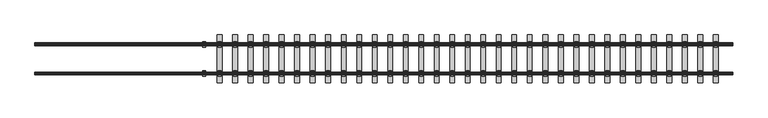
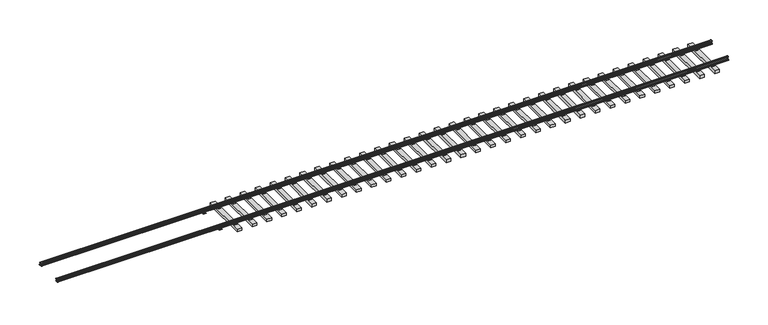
"""IFC4 building model written with IfcOpenShell, lengths in millimetres: railing geometry, Koleje."""

from ifc_helpers import new_model, si_unit, point, frame, frame_2d, origin, place, context, project, spatial, polyline, circle_curve, trimmed, segment, composite_curve, outline, extrude, source, transform, mapped, element, save


def railing_1b08457a(model_context):
    return source(origin(), model_context, "Body", "SweptSolid", [
        extrude(outline(composite_curve([segment(polyline([(25473.2955787, 161.9663444), (25446.2955787, 147.0), (25446.2955787, 65.0)]), True, "CONTINUOUS"), segment(trimmed(circle_curve(frame_2d((25466.7955787, 65.0)), 20.5), [point((25446.2955787, 65.0))], [point((25460.9481446, 45.3516536))], True, "CARTESIAN"), True, "CONTINUOUS"), segment(polyline([(25460.9481446, 45.3516536), (25478.5397234, 39.9733683)]), True, "CONTINUOUS"), segment(trimmed(circle_curve(frame_2d((25501.4294598, 126.5921559)), 89.5921559), [point((25478.5397234, 39.9733683))], [point((25501.4294598, 37.0))], True, "CARTESIAN"), True, "CONTINUOUS"), segment(polyline([(25501.4294598, 37.0), (25511.2955787, 37.0), (25511.2955787, 15.0), (25361.2955787, 15.0), (25361.2955787, 37.0), (25371.1616977, 37.0)]), True, "CONTINUOUS"), segment(trimmed(circle_curve(frame_2d((25371.1616977, 116.8785391)), 79.8785391), [point((25371.1616977, 37.0))], [point((25394.0514341, 40.3498453))], True, "CARTESIAN"), True, "CONTINUOUS"), segment(polyline([(25394.0514341, 40.3498453), (25411.6430128, 45.7281306)]), True, "CONTINUOUS"), segment(trimmed(circle_curve(frame_2d((25406.2955787, 65.0)), 20.0), [point((25411.6430128, 45.7281306))], [point((25426.2955787, 65.0))], True, "CARTESIAN"), True, "CONTINUOUS"), segment(polyline([(25426.2955787, 65.0), (25426.2955787, 147.0), (25399.2955787, 161.9663444), (25399.2955787, 176.5)]), True, "CONTINUOUS"), segment(trimmed(circle_curve(frame_2d((25417.7955787, 176.5)), 18.5), [point((25399.2955787, 176.5))], [point((25417.7955787, 195.0))], False, "CARTESIAN"), True, "CONTINUOUS"), segment(polyline([(25417.7955787, 195.0), (25454.7955787, 195.0)]), True, "CONTINUOUS"), segment(trimmed(circle_curve(frame_2d((25454.7955787, 176.5)), 18.5), [point((25454.7955787, 195.0))], [point((25473.2955787, 176.5))], False, "CARTESIAN"), True, "CONTINUOUS"), segment(polyline([(25473.2955787, 176.5), (25473.2955787, 161.9663444)]), True, "CONTINUOUS")], self_intersect=False)), frame((26961.7094345, 0.0, 0.0), z_axis=(1.0, 0.0, 0.0), x_axis=(0.0, 1.0, 0.0)), (0.0, 0.0, 1.0), 36300.0),
        extrude(outline(composite_curve([segment(polyline([(26982.2955787, 161.9663444), (26955.2955787, 147.0), (26955.2955787, 65.0)]), True, "CONTINUOUS"), segment(trimmed(circle_curve(frame_2d((26975.7955787, 65.0)), 20.5), [point((26955.2955787, 65.0))], [point((26969.9481446, 45.3516536))], True, "CARTESIAN"), True, "CONTINUOUS"), segment(polyline([(26969.9481446, 45.3516536), (26987.5397234, 39.9733683)]), True, "CONTINUOUS"), segment(trimmed(circle_curve(frame_2d((27010.4294598, 126.5921559)), 89.5921559), [point((26987.5397234, 39.9733683))], [point((27010.4294598, 37.0))], True, "CARTESIAN"), True, "CONTINUOUS"), segment(polyline([(27010.4294598, 37.0), (27020.2955787, 37.0), (27020.2955787, 15.0), (26870.2955787, 15.0), (26870.2955787, 37.0), (26880.1616977, 37.0)]), True, "CONTINUOUS"), segment(trimmed(circle_curve(frame_2d((26880.1616977, 116.8785391)), 79.8785391), [point((26880.1616977, 37.0))], [point((26903.0514341, 40.3498453))], True, "CARTESIAN"), True, "CONTINUOUS"), segment(polyline([(26903.0514341, 40.3498453), (26920.6430128, 45.7281306)]), True, "CONTINUOUS"), segment(trimmed(circle_curve(frame_2d((26915.2955787, 65.0)), 20.0), [point((26920.6430128, 45.7281306))], [point((26935.2955787, 65.0))], True, "CARTESIAN"), True, "CONTINUOUS"), segment(polyline([(26935.2955787, 65.0), (26935.2955787, 147.0), (26908.2955787, 161.9663444), (26908.2955787, 176.5)]), True, "CONTINUOUS"), segment(trimmed(circle_curve(frame_2d((26926.7955787, 176.5)), 18.5), [point((26908.2955787, 176.5))], [point((26926.7955787, 195.0))], False, "CARTESIAN"), True, "CONTINUOUS"), segment(polyline([(26926.7955787, 195.0), (26963.7955787, 195.0)]), True, "CONTINUOUS"), segment(trimmed(circle_curve(frame_2d((26963.7955787, 176.5)), 18.5), [point((26963.7955787, 195.0))], [point((26982.2955787, 176.5))], False, "CARTESIAN"), True, "CONTINUOUS"), segment(polyline([(26982.2955787, 176.5), (26982.2955787, 161.9663444)]), True, "CONTINUOUS")], self_intersect=False)), frame((26961.7094345, 0.0, 0.0), z_axis=(1.0, 0.0, 0.0), x_axis=(0.0, 1.0, 0.0)), (0.0, 0.0, 1.0), 36300.0),
        extrude(outline(polyline([(27095.2955787, 0.0), (26795.2955787, 0.0), (26795.2955787, 7.5), (26855.2955787, 15.0), (26870.2955787, 30.0), (26870.2955787, 15.0), (27020.2955787, 15.0), (27020.2955787, 30.0), (27035.2955787, 15.0), (27095.2955787, 7.5), (27095.2955787, 0.0)])), frame((62312.1796907, 0.0, 0.0), z_axis=(1.0, 0.0, 0.0), x_axis=(0.0, 1.0, 0.0)), (0.0, 0.0, 1.0), 150.0),
        extrude(outline(polyline([(25586.2955787, 0.0), (25286.2955787, 0.0), (25286.2955787, 7.5), (25346.2955787, 15.0), (25361.2955787, 30.0), (25361.2955787, 15.0), (25511.2955787, 15.0), (25511.2955787, 30.0), (25526.2955787, 15.0), (25586.2955787, 7.5), (25586.2955787, 0.0)])), frame((62312.1796907, 0.0, 0.0), z_axis=(1.0, 0.0, 0.0), x_axis=(0.0, 1.0, 0.0)), (0.0, 0.0, 1.0), 150.0),
        extrude(outline(polyline([(62262.1796907, 27440.7955787), (62512.1796907, 27440.7955787), (62512.1796907, 24940.7955787), (62262.1796907, 24940.7955787), (62262.1796907, 27440.7955787)])), frame((0.0, 0.0, -150.0), z_axis=(0.0, 0.0, 1.0), x_axis=(1.0, 0.0, 0.0)), (0.0, 0.0, 1.0), 150.0),
        extrude(outline(polyline([(27095.2955787, 0.0), (26795.2955787, 0.0), (26795.2955787, 7.5), (26855.2955787, 15.0), (26870.2955787, 30.0), (26870.2955787, 15.0), (27020.2955787, 15.0), (27020.2955787, 30.0), (27035.2955787, 15.0), (27095.2955787, 7.5), (27095.2955787, 0.0)])), frame((61505.5130241, 0.0, 0.0), z_axis=(1.0, 0.0, 0.0), x_axis=(0.0, 1.0, 0.0)), (0.0, 0.0, 1.0), 150.0),
        extrude(outline(polyline([(25586.2955787, 0.0), (25286.2955787, 0.0), (25286.2955787, 7.5), (25346.2955787, 15.0), (25361.2955787, 30.0), (25361.2955787, 15.0), (25511.2955787, 15.0), (25511.2955787, 30.0), (25526.2955787, 15.0), (25586.2955787, 7.5), (25586.2955787, 0.0)])), frame((61505.5130241, 0.0, 0.0), z_axis=(1.0, 0.0, 0.0), x_axis=(0.0, 1.0, 0.0)), (0.0, 0.0, 1.0), 150.0),
        extrude(outline(polyline([(61455.5130241, 27440.7955787), (61705.5130241, 27440.7955787), (61705.5130241, 24940.7955787), (61455.5130241, 24940.7955787), (61455.5130241, 27440.7955787)])), frame((0.0, 0.0, -150.0), z_axis=(0.0, 0.0, 1.0), x_axis=(1.0, 0.0, 0.0)), (0.0, 0.0, 1.0), 150.0),
        extrude(outline(polyline([(27095.2955787, 0.0), (26795.2955787, 0.0), (26795.2955787, 7.5), (26855.2955787, 15.0), (26870.2955787, 30.0), (26870.2955787, 15.0), (27020.2955787, 15.0), (27020.2955787, 30.0), (27035.2955787, 15.0), (27095.2955787, 7.5), (27095.2955787, 0.0)])), frame((60698.8463574, 0.0, 0.0), z_axis=(1.0, 0.0, 0.0), x_axis=(0.0, 1.0, 0.0)), (0.0, 0.0, 1.0), 150.0),
        extrude(outline(polyline([(25586.2955787, 0.0), (25286.2955787, 0.0), (25286.2955787, 7.5), (25346.2955787, 15.0), (25361.2955787, 30.0), (25361.2955787, 15.0), (25511.2955787, 15.0), (25511.2955787, 30.0), (25526.2955787, 15.0), (25586.2955787, 7.5), (25586.2955787, 0.0)])), frame((60698.8463574, 0.0, 0.0), z_axis=(1.0, 0.0, 0.0), x_axis=(0.0, 1.0, 0.0)), (0.0, 0.0, 1.0), 150.0),
        extrude(outline(polyline([(60648.8463574, 27440.7955787), (60898.8463574, 27440.7955787), (60898.8463574, 24940.7955787), (60648.8463574, 24940.7955787), (60648.8463574, 27440.7955787)])), frame((0.0, 0.0, -150.0), z_axis=(0.0, 0.0, 1.0), x_axis=(1.0, 0.0, 0.0)), (0.0, 0.0, 1.0), 150.0),
        extrude(outline(polyline([(27095.2955787, 0.0), (26795.2955787, 0.0), (26795.2955787, 7.5), (26855.2955787, 15.0), (26870.2955787, 30.0), (26870.2955787, 15.0), (27020.2955787, 15.0), (27020.2955787, 30.0), (27035.2955787, 15.0), (27095.2955787, 7.5), (27095.2955787, 0.0)])), frame((59892.1796907, 0.0, 0.0), z_axis=(1.0, 0.0, 0.0), x_axis=(0.0, 1.0, 0.0)), (0.0, 0.0, 1.0), 150.0),
        extrude(outline(polyline([(25586.2955787, 0.0), (25286.2955787, 0.0), (25286.2955787, 7.5), (25346.2955787, 15.0), (25361.2955787, 30.0), (25361.2955787, 15.0), (25511.2955787, 15.0), (25511.2955787, 30.0), (25526.2955787, 15.0), (25586.2955787, 7.5), (25586.2955787, 0.0)])), frame((59892.1796907, 0.0, 0.0), z_axis=(1.0, 0.0, 0.0), x_axis=(0.0, 1.0, 0.0)), (0.0, 0.0, 1.0), 150.0),
        extrude(outline(polyline([(59842.1796907, 27440.7955787), (60092.1796907, 27440.7955787), (60092.1796907, 24940.7955787), (59842.1796907, 24940.7955787), (59842.1796907, 27440.7955787)])), frame((0.0, 0.0, -150.0), z_axis=(0.0, 0.0, 1.0), x_axis=(1.0, 0.0, 0.0)), (0.0, 0.0, 1.0), 150.0),
        extrude(outline(polyline([(27095.2955787, 0.0), (26795.2955787, 0.0), (26795.2955787, 7.5), (26855.2955787, 15.0), (26870.2955787, 30.0), (26870.2955787, 15.0), (27020.2955787, 15.0), (27020.2955787, 30.0), (27035.2955787, 15.0), (27095.2955787, 7.5), (27095.2955787, 0.0)])), frame((59085.5130241, 0.0, 0.0), z_axis=(1.0, 0.0, 0.0), x_axis=(0.0, 1.0, 0.0)), (0.0, 0.0, 1.0), 150.0),
        extrude(outline(polyline([(25586.2955787, 0.0), (25286.2955787, 0.0), (25286.2955787, 7.5), (25346.2955787, 15.0), (25361.2955787, 30.0), (25361.2955787, 15.0), (25511.2955787, 15.0), (25511.2955787, 30.0), (25526.2955787, 15.0), (25586.2955787, 7.5), (25586.2955787, 0.0)])), frame((59085.5130241, 0.0, 0.0), z_axis=(1.0, 0.0, 0.0), x_axis=(0.0, 1.0, 0.0)), (0.0, 0.0, 1.0), 150.0),
        extrude(outline(polyline([(59035.5130241, 27440.7955787), (59285.5130241, 27440.7955787), (59285.5130241, 24940.7955787), (59035.5130241, 24940.7955787), (59035.5130241, 27440.7955787)])), frame((0.0, 0.0, -150.0), z_axis=(0.0, 0.0, 1.0), x_axis=(1.0, 0.0, 0.0)), (0.0, 0.0, 1.0), 150.0),
        extrude(outline(polyline([(27095.2955787, 0.0), (26795.2955787, 0.0), (26795.2955787, 7.5), (26855.2955787, 15.0), (26870.2955787, 30.0), (26870.2955787, 15.0), (27020.2955787, 15.0), (27020.2955787, 30.0), (27035.2955787, 15.0), (27095.2955787, 7.5), (27095.2955787, 0.0)])), frame((58278.8463574, 0.0, 0.0), z_axis=(1.0, 0.0, 0.0), x_axis=(0.0, 1.0, 0.0)), (0.0, 0.0, 1.0), 150.0),
        extrude(outline(polyline([(25586.2955787, 0.0), (25286.2955787, 0.0), (25286.2955787, 7.5), (25346.2955787, 15.0), (25361.2955787, 30.0), (25361.2955787, 15.0), (25511.2955787, 15.0), (25511.2955787, 30.0), (25526.2955787, 15.0), (25586.2955787, 7.5), (25586.2955787, 0.0)])), frame((58278.8463574, 0.0, 0.0), z_axis=(1.0, 0.0, 0.0), x_axis=(0.0, 1.0, 0.0)), (0.0, 0.0, 1.0), 150.0),
        extrude(outline(polyline([(58228.8463574, 27440.7955787), (58478.8463574, 27440.7955787), (58478.8463574, 24940.7955787), (58228.8463574, 24940.7955787), (58228.8463574, 27440.7955787)])), frame((0.0, 0.0, -150.0), z_axis=(0.0, 0.0, 1.0), x_axis=(1.0, 0.0, 0.0)), (0.0, 0.0, 1.0), 150.0),
        extrude(outline(polyline([(27095.2955787, 0.0), (26795.2955787, 0.0), (26795.2955787, 7.5), (26855.2955787, 15.0), (26870.2955787, 30.0), (26870.2955787, 15.0), (27020.2955787, 15.0), (27020.2955787, 30.0), (27035.2955787, 15.0), (27095.2955787, 7.5), (27095.2955787, 0.0)])), frame((57472.1796907, 0.0, 0.0), z_axis=(1.0, 0.0, 0.0), x_axis=(0.0, 1.0, 0.0)), (0.0, 0.0, 1.0), 150.0),
        extrude(outline(polyline([(25586.2955787, 0.0), (25286.2955787, 0.0), (25286.2955787, 7.5), (25346.2955787, 15.0), (25361.2955787, 30.0), (25361.2955787, 15.0), (25511.2955787, 15.0), (25511.2955787, 30.0), (25526.2955787, 15.0), (25586.2955787, 7.5), (25586.2955787, 0.0)])), frame((57472.1796907, 0.0, 0.0), z_axis=(1.0, 0.0, 0.0), x_axis=(0.0, 1.0, 0.0)), (0.0, 0.0, 1.0), 150.0),
        extrude(outline(polyline([(57422.1796907, 27440.7955787), (57672.1796907, 27440.7955787), (57672.1796907, 24940.7955787), (57422.1796907, 24940.7955787), (57422.1796907, 27440.7955787)])), frame((0.0, 0.0, -150.0), z_axis=(0.0, 0.0, 1.0), x_axis=(1.0, 0.0, 0.0)), (0.0, 0.0, 1.0), 150.0),
        extrude(outline(polyline([(27095.2955787, 0.0), (26795.2955787, 0.0), (26795.2955787, 7.5), (26855.2955787, 15.0), (26870.2955787, 30.0), (26870.2955787, 15.0), (27020.2955787, 15.0), (27020.2955787, 30.0), (27035.2955787, 15.0), (27095.2955787, 7.5), (27095.2955787, 0.0)])), frame((56665.5130241, 0.0, 0.0), z_axis=(1.0, 0.0, 0.0), x_axis=(0.0, 1.0, 0.0)), (0.0, 0.0, 1.0), 150.0),
        extrude(outline(polyline([(25586.2955787, 0.0), (25286.2955787, 0.0), (25286.2955787, 7.5), (25346.2955787, 15.0), (25361.2955787, 30.0), (25361.2955787, 15.0), (25511.2955787, 15.0), (25511.2955787, 30.0), (25526.2955787, 15.0), (25586.2955787, 7.5), (25586.2955787, 0.0)])), frame((56665.5130241, 0.0, 0.0), z_axis=(1.0, 0.0, 0.0), x_axis=(0.0, 1.0, 0.0)), (0.0, 0.0, 1.0), 150.0),
        extrude(outline(polyline([(56615.5130241, 27440.7955787), (56865.5130241, 27440.7955787), (56865.5130241, 24940.7955787), (56615.5130241, 24940.7955787), (56615.5130241, 27440.7955787)])), frame((0.0, 0.0, -150.0), z_axis=(0.0, 0.0, 1.0), x_axis=(1.0, 0.0, 0.0)), (0.0, 0.0, 1.0), 150.0),
        extrude(outline(polyline([(27095.2955787, 0.0), (26795.2955787, 0.0), (26795.2955787, 7.5), (26855.2955787, 15.0), (26870.2955787, 30.0), (26870.2955787, 15.0), (27020.2955787, 15.0), (27020.2955787, 30.0), (27035.2955787, 15.0), (27095.2955787, 7.5), (27095.2955787, 0.0)])), frame((55858.8463574, 0.0, 0.0), z_axis=(1.0, 0.0, 0.0), x_axis=(0.0, 1.0, 0.0)), (0.0, 0.0, 1.0), 150.0),
        extrude(outline(polyline([(25586.2955787, 0.0), (25286.2955787, 0.0), (25286.2955787, 7.5), (25346.2955787, 15.0), (25361.2955787, 30.0), (25361.2955787, 15.0), (25511.2955787, 15.0), (25511.2955787, 30.0), (25526.2955787, 15.0), (25586.2955787, 7.5), (25586.2955787, 0.0)])), frame((55858.8463574, 0.0, 0.0), z_axis=(1.0, 0.0, 0.0), x_axis=(0.0, 1.0, 0.0)), (0.0, 0.0, 1.0), 150.0),
        extrude(outline(polyline([(55808.8463574, 27440.7955787), (56058.8463574, 27440.7955787), (56058.8463574, 24940.7955787), (55808.8463574, 24940.7955787), (55808.8463574, 27440.7955787)])), frame((0.0, 0.0, -150.0), z_axis=(0.0, 0.0, 1.0), x_axis=(1.0, 0.0, 0.0)), (0.0, 0.0, 1.0), 150.0),
        extrude(outline(polyline([(27095.2955787, 0.0), (26795.2955787, 0.0), (26795.2955787, 7.5), (26855.2955787, 15.0), (26870.2955787, 30.0), (26870.2955787, 15.0), (27020.2955787, 15.0), (27020.2955787, 30.0), (27035.2955787, 15.0), (27095.2955787, 7.5), (27095.2955787, 0.0)])), frame((55052.1796907, 0.0, 0.0), z_axis=(1.0, 0.0, 0.0), x_axis=(0.0, 1.0, 0.0)), (0.0, 0.0, 1.0), 150.0),
        extrude(outline(polyline([(25586.2955787, 0.0), (25286.2955787, 0.0), (25286.2955787, 7.5), (25346.2955787, 15.0), (25361.2955787, 30.0), (25361.2955787, 15.0), (25511.2955787, 15.0), (25511.2955787, 30.0), (25526.2955787, 15.0), (25586.2955787, 7.5), (25586.2955787, 0.0)])), frame((55052.1796907, 0.0, 0.0), z_axis=(1.0, 0.0, 0.0), x_axis=(0.0, 1.0, 0.0)), (0.0, 0.0, 1.0), 150.0),
        extrude(outline(polyline([(55002.1796907, 27440.7955787), (55252.1796907, 27440.7955787), (55252.1796907, 24940.7955787), (55002.1796907, 24940.7955787), (55002.1796907, 27440.7955787)])), frame((0.0, 0.0, -150.0), z_axis=(0.0, 0.0, 1.0), x_axis=(1.0, 0.0, 0.0)), (0.0, 0.0, 1.0), 150.0),
        extrude(outline(polyline([(27095.2955787, 0.0), (26795.2955787, 0.0), (26795.2955787, 7.5), (26855.2955787, 15.0), (26870.2955787, 30.0), (26870.2955787, 15.0), (27020.2955787, 15.0), (27020.2955787, 30.0), (27035.2955787, 15.0), (27095.2955787, 7.5), (27095.2955787, 0.0)])), frame((54245.5130241, 0.0, 0.0), z_axis=(1.0, 0.0, 0.0), x_axis=(0.0, 1.0, 0.0)), (0.0, 0.0, 1.0), 150.0),
        extrude(outline(polyline([(25586.2955787, 0.0), (25286.2955787, 0.0), (25286.2955787, 7.5), (25346.2955787, 15.0), (25361.2955787, 30.0), (25361.2955787, 15.0), (25511.2955787, 15.0), (25511.2955787, 30.0), (25526.2955787, 15.0), (25586.2955787, 7.5), (25586.2955787, 0.0)])), frame((54245.5130241, 0.0, 0.0), z_axis=(1.0, 0.0, 0.0), x_axis=(0.0, 1.0, 0.0)), (0.0, 0.0, 1.0), 150.0),
        extrude(outline(polyline([(54195.5130241, 27440.7955787), (54445.5130241, 27440.7955787), (54445.5130241, 24940.7955787), (54195.5130241, 24940.7955787), (54195.5130241, 27440.7955787)])), frame((0.0, 0.0, -150.0), z_axis=(0.0, 0.0, 1.0), x_axis=(1.0, 0.0, 0.0)), (0.0, 0.0, 1.0), 150.0),
        extrude(outline(polyline([(27095.2955787, 0.0), (26795.2955787, 0.0), (26795.2955787, 7.5), (26855.2955787, 15.0), (26870.2955787, 30.0), (26870.2955787, 15.0), (27020.2955787, 15.0), (27020.2955787, 30.0), (27035.2955787, 15.0), (27095.2955787, 7.5), (27095.2955787, 0.0)])), frame((53438.8463574, 0.0, 0.0), z_axis=(1.0, 0.0, 0.0), x_axis=(0.0, 1.0, 0.0)), (0.0, 0.0, 1.0), 150.0),
        extrude(outline(polyline([(25586.2955787, 0.0), (25286.2955787, 0.0), (25286.2955787, 7.5), (25346.2955787, 15.0), (25361.2955787, 30.0), (25361.2955787, 15.0), (25511.2955787, 15.0), (25511.2955787, 30.0), (25526.2955787, 15.0), (25586.2955787, 7.5), (25586.2955787, 0.0)])), frame((53438.8463574, 0.0, 0.0), z_axis=(1.0, 0.0, 0.0), x_axis=(0.0, 1.0, 0.0)), (0.0, 0.0, 1.0), 150.0),
        extrude(outline(polyline([(53388.8463574, 27440.7955787), (53638.8463574, 27440.7955787), (53638.8463574, 24940.7955787), (53388.8463574, 24940.7955787), (53388.8463574, 27440.7955787)])), frame((0.0, 0.0, -150.0), z_axis=(0.0, 0.0, 1.0), x_axis=(1.0, 0.0, 0.0)), (0.0, 0.0, 1.0), 150.0),
        extrude(outline(polyline([(27095.2955787, 0.0), (26795.2955787, 0.0), (26795.2955787, 7.5), (26855.2955787, 15.0), (26870.2955787, 30.0), (26870.2955787, 15.0), (27020.2955787, 15.0), (27020.2955787, 30.0), (27035.2955787, 15.0), (27095.2955787, 7.5), (27095.2955787, 0.0)])), frame((52632.1796907, 0.0, 0.0), z_axis=(1.0, 0.0, 0.0), x_axis=(0.0, 1.0, 0.0)), (0.0, 0.0, 1.0), 150.0),
        extrude(outline(polyline([(25586.2955787, 0.0), (25286.2955787, 0.0), (25286.2955787, 7.5), (25346.2955787, 15.0), (25361.2955787, 30.0), (25361.2955787, 15.0), (25511.2955787, 15.0), (25511.2955787, 30.0), (25526.2955787, 15.0), (25586.2955787, 7.5), (25586.2955787, 0.0)])), frame((52632.1796907, 0.0, 0.0), z_axis=(1.0, 0.0, 0.0), x_axis=(0.0, 1.0, 0.0)), (0.0, 0.0, 1.0), 150.0),
        extrude(outline(polyline([(52582.1796907, 27440.7955787), (52832.1796907, 27440.7955787), (52832.1796907, 24940.7955787), (52582.1796907, 24940.7955787), (52582.1796907, 27440.7955787)])), frame((0.0, 0.0, -150.0), z_axis=(0.0, 0.0, 1.0), x_axis=(1.0, 0.0, 0.0)), (0.0, 0.0, 1.0), 150.0),
        extrude(outline(polyline([(27095.2955787, 0.0), (26795.2955787, 0.0), (26795.2955787, 7.5), (26855.2955787, 15.0), (26870.2955787, 30.0), (26870.2955787, 15.0), (27020.2955787, 15.0), (27020.2955787, 30.0), (27035.2955787, 15.0), (27095.2955787, 7.5), (27095.2955787, 0.0)])), frame((51825.5130241, 0.0, 0.0), z_axis=(1.0, 0.0, 0.0), x_axis=(0.0, 1.0, 0.0)), (0.0, 0.0, 1.0), 150.0),
        extrude(outline(polyline([(25586.2955787, 0.0), (25286.2955787, 0.0), (25286.2955787, 7.5), (25346.2955787, 15.0), (25361.2955787, 30.0), (25361.2955787, 15.0), (25511.2955787, 15.0), (25511.2955787, 30.0), (25526.2955787, 15.0), (25586.2955787, 7.5), (25586.2955787, 0.0)])), frame((51825.5130241, 0.0, 0.0), z_axis=(1.0, 0.0, 0.0), x_axis=(0.0, 1.0, 0.0)), (0.0, 0.0, 1.0), 150.0),
        extrude(outline(polyline([(51775.5130241, 27440.7955787), (52025.5130241, 27440.7955787), (52025.5130241, 24940.7955787), (51775.5130241, 24940.7955787), (51775.5130241, 27440.7955787)])), frame((0.0, 0.0, -150.0), z_axis=(0.0, 0.0, 1.0), x_axis=(1.0, 0.0, 0.0)), (0.0, 0.0, 1.0), 150.0),
        extrude(outline(polyline([(27095.2955787, 0.0), (26795.2955787, 0.0), (26795.2955787, 7.5), (26855.2955787, 15.0), (26870.2955787, 30.0), (26870.2955787, 15.0), (27020.2955787, 15.0), (27020.2955787, 30.0), (27035.2955787, 15.0), (27095.2955787, 7.5), (27095.2955787, 0.0)])), frame((51018.8463574, 0.0, 0.0), z_axis=(1.0, 0.0, 0.0), x_axis=(0.0, 1.0, 0.0)), (0.0, 0.0, 1.0), 150.0),
        extrude(outline(polyline([(25586.2955787, 0.0), (25286.2955787, 0.0), (25286.2955787, 7.5), (25346.2955787, 15.0), (25361.2955787, 30.0), (25361.2955787, 15.0), (25511.2955787, 15.0), (25511.2955787, 30.0), (25526.2955787, 15.0), (25586.2955787, 7.5), (25586.2955787, 0.0)])), frame((51018.8463574, 0.0, 0.0), z_axis=(1.0, 0.0, 0.0), x_axis=(0.0, 1.0, 0.0)), (0.0, 0.0, 1.0), 150.0),
        extrude(outline(polyline([(50968.8463574, 27440.7955787), (51218.8463574, 27440.7955787), (51218.8463574, 24940.7955787), (50968.8463574, 24940.7955787), (50968.8463574, 27440.7955787)])), frame((0.0, 0.0, -150.0), z_axis=(0.0, 0.0, 1.0), x_axis=(1.0, 0.0, 0.0)), (0.0, 0.0, 1.0), 150.0),
        extrude(outline(polyline([(27095.2955787, 0.0), (26795.2955787, 0.0), (26795.2955787, 7.5), (26855.2955787, 15.0), (26870.2955787, 30.0), (26870.2955787, 15.0), (27020.2955787, 15.0), (27020.2955787, 30.0), (27035.2955787, 15.0), (27095.2955787, 7.5), (27095.2955787, 0.0)])), frame((50212.1796907, 0.0, 0.0), z_axis=(1.0, 0.0, 0.0), x_axis=(0.0, 1.0, 0.0)), (0.0, 0.0, 1.0), 150.0),
        extrude(outline(polyline([(25586.2955787, 0.0), (25286.2955787, 0.0), (25286.2955787, 7.5), (25346.2955787, 15.0), (25361.2955787, 30.0), (25361.2955787, 15.0), (25511.2955787, 15.0), (25511.2955787, 30.0), (25526.2955787, 15.0), (25586.2955787, 7.5), (25586.2955787, 0.0)])), frame((50212.1796907, 0.0, 0.0), z_axis=(1.0, 0.0, 0.0), x_axis=(0.0, 1.0, 0.0)), (0.0, 0.0, 1.0), 150.0),
        extrude(outline(polyline([(50162.1796907, 27440.7955787), (50412.1796907, 27440.7955787), (50412.1796907, 24940.7955787), (50162.1796907, 24940.7955787), (50162.1796907, 27440.7955787)])), frame((0.0, 0.0, -150.0), z_axis=(0.0, 0.0, 1.0), x_axis=(1.0, 0.0, 0.0)), (0.0, 0.0, 1.0), 150.0),
        extrude(outline(polyline([(27095.2955787, 0.0), (26795.2955787, 0.0), (26795.2955787, 7.5), (26855.2955787, 15.0), (26870.2955787, 30.0), (26870.2955787, 15.0), (27020.2955787, 15.0), (27020.2955787, 30.0), (27035.2955787, 15.0), (27095.2955787, 7.5), (27095.2955787, 0.0)])), frame((49405.5130241, 0.0, 0.0), z_axis=(1.0, 0.0, 0.0), x_axis=(0.0, 1.0, 0.0)), (0.0, 0.0, 1.0), 150.0),
        extrude(outline(polyline([(25586.2955787, 0.0), (25286.2955787, 0.0), (25286.2955787, 7.5), (25346.2955787, 15.0), (25361.2955787, 30.0), (25361.2955787, 15.0), (25511.2955787, 15.0), (25511.2955787, 30.0), (25526.2955787, 15.0), (25586.2955787, 7.5), (25586.2955787, 0.0)])), frame((49405.5130241, 0.0, 0.0), z_axis=(1.0, 0.0, 0.0), x_axis=(0.0, 1.0, 0.0)), (0.0, 0.0, 1.0), 150.0),
        extrude(outline(polyline([(49355.5130241, 27440.7955787), (49605.5130241, 27440.7955787), (49605.5130241, 24940.7955787), (49355.5130241, 24940.7955787), (49355.5130241, 27440.7955787)])), frame((0.0, 0.0, -150.0), z_axis=(0.0, 0.0, 1.0), x_axis=(1.0, 0.0, 0.0)), (0.0, 0.0, 1.0), 150.0),
        extrude(outline(polyline([(27095.2955787, 0.0), (26795.2955787, 0.0), (26795.2955787, 7.5), (26855.2955787, 15.0), (26870.2955787, 30.0), (26870.2955787, 15.0), (27020.2955787, 15.0), (27020.2955787, 30.0), (27035.2955787, 15.0), (27095.2955787, 7.5), (27095.2955787, 0.0)])), frame((48598.8463574, 0.0, 0.0), z_axis=(1.0, 0.0, 0.0), x_axis=(0.0, 1.0, 0.0)), (0.0, 0.0, 1.0), 150.0),
        extrude(outline(polyline([(25586.2955787, 0.0), (25286.2955787, 0.0), (25286.2955787, 7.5), (25346.2955787, 15.0), (25361.2955787, 30.0), (25361.2955787, 15.0), (25511.2955787, 15.0), (25511.2955787, 30.0), (25526.2955787, 15.0), (25586.2955787, 7.5), (25586.2955787, 0.0)])), frame((48598.8463574, 0.0, 0.0), z_axis=(1.0, 0.0, 0.0), x_axis=(0.0, 1.0, 0.0)), (0.0, 0.0, 1.0), 150.0),
        extrude(outline(polyline([(48548.8463574, 27440.7955787), (48798.8463574, 27440.7955787), (48798.8463574, 24940.7955787), (48548.8463574, 24940.7955787), (48548.8463574, 27440.7955787)])), frame((0.0, 0.0, -150.0), z_axis=(0.0, 0.0, 1.0), x_axis=(1.0, 0.0, 0.0)), (0.0, 0.0, 1.0), 150.0),
        extrude(outline(polyline([(27095.2955787, 0.0), (26795.2955787, 0.0), (26795.2955787, 7.5), (26855.2955787, 15.0), (26870.2955787, 30.0), (26870.2955787, 15.0), (27020.2955787, 15.0), (27020.2955787, 30.0), (27035.2955787, 15.0), (27095.2955787, 7.5), (27095.2955787, 0.0)])), frame((47792.1796907, 0.0, 0.0), z_axis=(1.0, 0.0, 0.0), x_axis=(0.0, 1.0, 0.0)), (0.0, 0.0, 1.0), 150.0),
        extrude(outline(polyline([(25586.2955787, 0.0), (25286.2955787, 0.0), (25286.2955787, 7.5), (25346.2955787, 15.0), (25361.2955787, 30.0), (25361.2955787, 15.0), (25511.2955787, 15.0), (25511.2955787, 30.0), (25526.2955787, 15.0), (25586.2955787, 7.5), (25586.2955787, 0.0)])), frame((47792.1796907, 0.0, 0.0), z_axis=(1.0, 0.0, 0.0), x_axis=(0.0, 1.0, 0.0)), (0.0, 0.0, 1.0), 150.0),
        extrude(outline(polyline([(47742.1796907, 27440.7955787), (47992.1796907, 27440.7955787), (47992.1796907, 24940.7955787), (47742.1796907, 24940.7955787), (47742.1796907, 27440.7955787)])), frame((0.0, 0.0, -150.0), z_axis=(0.0, 0.0, 1.0), x_axis=(1.0, 0.0, 0.0)), (0.0, 0.0, 1.0), 150.0),
        extrude(outline(polyline([(27095.2955787, 0.0), (26795.2955787, 0.0), (26795.2955787, 7.5), (26855.2955787, 15.0), (26870.2955787, 30.0), (26870.2955787, 15.0), (27020.2955787, 15.0), (27020.2955787, 30.0), (27035.2955787, 15.0), (27095.2955787, 7.5), (27095.2955787, 0.0)])), frame((46985.5130241, 0.0, 0.0), z_axis=(1.0, 0.0, 0.0), x_axis=(0.0, 1.0, 0.0)), (0.0, 0.0, 1.0), 150.0),
        extrude(outline(polyline([(25586.2955787, 0.0), (25286.2955787, 0.0), (25286.2955787, 7.5), (25346.2955787, 15.0), (25361.2955787, 30.0), (25361.2955787, 15.0), (25511.2955787, 15.0), (25511.2955787, 30.0), (25526.2955787, 15.0), (25586.2955787, 7.5), (25586.2955787, 0.0)])), frame((46985.5130241, 0.0, 0.0), z_axis=(1.0, 0.0, 0.0), x_axis=(0.0, 1.0, 0.0)), (0.0, 0.0, 1.0), 150.0),
        extrude(outline(polyline([(46935.5130241, 27440.7955787), (47185.5130241, 27440.7955787), (47185.5130241, 24940.7955787), (46935.5130241, 24940.7955787), (46935.5130241, 27440.7955787)])), frame((0.0, 0.0, -150.0), z_axis=(0.0, 0.0, 1.0), x_axis=(1.0, 0.0, 0.0)), (0.0, 0.0, 1.0), 150.0),
        extrude(outline(polyline([(27095.2955787, 0.0), (26795.2955787, 0.0), (26795.2955787, 7.5), (26855.2955787, 15.0), (26870.2955787, 30.0), (26870.2955787, 15.0), (27020.2955787, 15.0), (27020.2955787, 30.0), (27035.2955787, 15.0), (27095.2955787, 7.5), (27095.2955787, 0.0)])), frame((46178.8463574, 0.0, 0.0), z_axis=(1.0, 0.0, 0.0), x_axis=(0.0, 1.0, 0.0)), (0.0, 0.0, 1.0), 150.0),
        extrude(outline(polyline([(25586.2955787, 0.0), (25286.2955787, 0.0), (25286.2955787, 7.5), (25346.2955787, 15.0), (25361.2955787, 30.0), (25361.2955787, 15.0), (25511.2955787, 15.0), (25511.2955787, 30.0), (25526.2955787, 15.0), (25586.2955787, 7.5), (25586.2955787, 0.0)])), frame((46178.8463574, 0.0, 0.0), z_axis=(1.0, 0.0, 0.0), x_axis=(0.0, 1.0, 0.0)), (0.0, 0.0, 1.0), 150.0),
        extrude(outline(polyline([(46128.8463574, 27440.7955787), (46378.8463574, 27440.7955787), (46378.8463574, 24940.7955787), (46128.8463574, 24940.7955787), (46128.8463574, 27440.7955787)])), frame((0.0, 0.0, -150.0), z_axis=(0.0, 0.0, 1.0), x_axis=(1.0, 0.0, 0.0)), (0.0, 0.0, 1.0), 150.0),
        extrude(outline(polyline([(27095.2955787, 0.0), (26795.2955787, 0.0), (26795.2955787, 7.5), (26855.2955787, 15.0), (26870.2955787, 30.0), (26870.2955787, 15.0), (27020.2955787, 15.0), (27020.2955787, 30.0), (27035.2955787, 15.0), (27095.2955787, 7.5), (27095.2955787, 0.0)])), frame((45372.1796907, 0.0, 0.0), z_axis=(1.0, 0.0, 0.0), x_axis=(0.0, 1.0, 0.0)), (0.0, 0.0, 1.0), 150.0),
        extrude(outline(polyline([(25586.2955787, 0.0), (25286.2955787, 0.0), (25286.2955787, 7.5), (25346.2955787, 15.0), (25361.2955787, 30.0), (25361.2955787, 15.0), (25511.2955787, 15.0), (25511.2955787, 30.0), (25526.2955787, 15.0), (25586.2955787, 7.5), (25586.2955787, 0.0)])), frame((45372.1796907, 0.0, 0.0), z_axis=(1.0, 0.0, 0.0), x_axis=(0.0, 1.0, 0.0)), (0.0, 0.0, 1.0), 150.0),
        extrude(outline(polyline([(45322.1796907, 27440.7955787), (45572.1796907, 27440.7955787), (45572.1796907, 24940.7955787), (45322.1796907, 24940.7955787), (45322.1796907, 27440.7955787)])), frame((0.0, 0.0, -150.0), z_axis=(0.0, 0.0, 1.0), x_axis=(1.0, 0.0, 0.0)), (0.0, 0.0, 1.0), 150.0),
        extrude(outline(polyline([(27095.2955787, 0.0), (26795.2955787, 0.0), (26795.2955787, 7.5), (26855.2955787, 15.0), (26870.2955787, 30.0), (26870.2955787, 15.0), (27020.2955787, 15.0), (27020.2955787, 30.0), (27035.2955787, 15.0), (27095.2955787, 7.5), (27095.2955787, 0.0)])), frame((44565.5130241, 0.0, 0.0), z_axis=(1.0, 0.0, 0.0), x_axis=(0.0, 1.0, 0.0)), (0.0, 0.0, 1.0), 150.0),
        extrude(outline(polyline([(25586.2955787, 0.0), (25286.2955787, 0.0), (25286.2955787, 7.5), (25346.2955787, 15.0), (25361.2955787, 30.0), (25361.2955787, 15.0), (25511.2955787, 15.0), (25511.2955787, 30.0), (25526.2955787, 15.0), (25586.2955787, 7.5), (25586.2955787, 0.0)])), frame((44565.5130241, 0.0, 0.0), z_axis=(1.0, 0.0, 0.0), x_axis=(0.0, 1.0, 0.0)), (0.0, 0.0, 1.0), 150.0),
        extrude(outline(polyline([(44515.5130241, 27440.7955787), (44765.5130241, 27440.7955787), (44765.5130241, 24940.7955787), (44515.5130241, 24940.7955787), (44515.5130241, 27440.7955787)])), frame((0.0, 0.0, -150.0), z_axis=(0.0, 0.0, 1.0), x_axis=(1.0, 0.0, 0.0)), (0.0, 0.0, 1.0), 150.0),
        extrude(outline(polyline([(27095.2955787, 0.0), (26795.2955787, 0.0), (26795.2955787, 7.5), (26855.2955787, 15.0), (26870.2955787, 30.0), (26870.2955787, 15.0), (27020.2955787, 15.0), (27020.2955787, 30.0), (27035.2955787, 15.0), (27095.2955787, 7.5), (27095.2955787, 0.0)])), frame((43758.8463574, 0.0, 0.0), z_axis=(1.0, 0.0, 0.0), x_axis=(0.0, 1.0, 0.0)), (0.0, 0.0, 1.0), 150.0),
        extrude(outline(polyline([(25586.2955787, 0.0), (25286.2955787, 0.0), (25286.2955787, 7.5), (25346.2955787, 15.0), (25361.2955787, 30.0), (25361.2955787, 15.0), (25511.2955787, 15.0), (25511.2955787, 30.0), (25526.2955787, 15.0), (25586.2955787, 7.5), (25586.2955787, 0.0)])), frame((43758.8463574, 0.0, 0.0), z_axis=(1.0, 0.0, 0.0), x_axis=(0.0, 1.0, 0.0)), (0.0, 0.0, 1.0), 150.0),
        extrude(outline(polyline([(43708.8463574, 27440.7955787), (43958.8463574, 27440.7955787), (43958.8463574, 24940.7955787), (43708.8463574, 24940.7955787), (43708.8463574, 27440.7955787)])), frame((0.0, 0.0, -150.0), z_axis=(0.0, 0.0, 1.0), x_axis=(1.0, 0.0, 0.0)), (0.0, 0.0, 1.0), 150.0),
        extrude(outline(polyline([(27095.2955787, 0.0), (26795.2955787, 0.0), (26795.2955787, 7.5), (26855.2955787, 15.0), (26870.2955787, 30.0), (26870.2955787, 15.0), (27020.2955787, 15.0), (27020.2955787, 30.0), (27035.2955787, 15.0), (27095.2955787, 7.5), (27095.2955787, 0.0)])), frame((42952.1796907, 0.0, 0.0), z_axis=(1.0, 0.0, 0.0), x_axis=(0.0, 1.0, 0.0)), (0.0, 0.0, 1.0), 150.0),
        extrude(outline(polyline([(25586.2955787, 0.0), (25286.2955787, 0.0), (25286.2955787, 7.5), (25346.2955787, 15.0), (25361.2955787, 30.0), (25361.2955787, 15.0), (25511.2955787, 15.0), (25511.2955787, 30.0), (25526.2955787, 15.0), (25586.2955787, 7.5), (25586.2955787, 0.0)])), frame((42952.1796907, 0.0, 0.0), z_axis=(1.0, 0.0, 0.0), x_axis=(0.0, 1.0, 0.0)), (0.0, 0.0, 1.0), 150.0),
        extrude(outline(polyline([(42902.1796907, 27440.7955787), (43152.1796907, 27440.7955787), (43152.1796907, 24940.7955787), (42902.1796907, 24940.7955787), (42902.1796907, 27440.7955787)])), frame((0.0, 0.0, -150.0), z_axis=(0.0, 0.0, 1.0), x_axis=(1.0, 0.0, 0.0)), (0.0, 0.0, 1.0), 150.0),
        extrude(outline(polyline([(27095.2955787, 0.0), (26795.2955787, 0.0), (26795.2955787, 7.5), (26855.2955787, 15.0), (26870.2955787, 30.0), (26870.2955787, 15.0), (27020.2955787, 15.0), (27020.2955787, 30.0), (27035.2955787, 15.0), (27095.2955787, 7.5), (27095.2955787, 0.0)])), frame((42145.5130241, 0.0, 0.0), z_axis=(1.0, 0.0, 0.0), x_axis=(0.0, 1.0, 0.0)), (0.0, 0.0, 1.0), 150.0),
        extrude(outline(polyline([(25586.2955787, 0.0), (25286.2955787, 0.0), (25286.2955787, 7.5), (25346.2955787, 15.0), (25361.2955787, 30.0), (25361.2955787, 15.0), (25511.2955787, 15.0), (25511.2955787, 30.0), (25526.2955787, 15.0), (25586.2955787, 7.5), (25586.2955787, 0.0)])), frame((42145.5130241, 0.0, 0.0), z_axis=(1.0, 0.0, 0.0), x_axis=(0.0, 1.0, 0.0)), (0.0, 0.0, 1.0), 150.0),
        extrude(outline(polyline([(42095.5130241, 27440.7955787), (42345.5130241, 27440.7955787), (42345.5130241, 24940.7955787), (42095.5130241, 24940.7955787), (42095.5130241, 27440.7955787)])), frame((0.0, 0.0, -150.0), z_axis=(0.0, 0.0, 1.0), x_axis=(1.0, 0.0, 0.0)), (0.0, 0.0, 1.0), 150.0),
        extrude(outline(polyline([(27095.2955787, 0.0), (26795.2955787, 0.0), (26795.2955787, 7.5), (26855.2955787, 15.0), (26870.2955787, 30.0), (26870.2955787, 15.0), (27020.2955787, 15.0), (27020.2955787, 30.0), (27035.2955787, 15.0), (27095.2955787, 7.5), (27095.2955787, 0.0)])), frame((41338.8463574, 0.0, 0.0), z_axis=(1.0, 0.0, 0.0), x_axis=(0.0, 1.0, 0.0)), (0.0, 0.0, 1.0), 150.0),
        extrude(outline(polyline([(25586.2955787, 0.0), (25286.2955787, 0.0), (25286.2955787, 7.5), (25346.2955787, 15.0), (25361.2955787, 30.0), (25361.2955787, 15.0), (25511.2955787, 15.0), (25511.2955787, 30.0), (25526.2955787, 15.0), (25586.2955787, 7.5), (25586.2955787, 0.0)])), frame((41338.8463574, 0.0, 0.0), z_axis=(1.0, 0.0, 0.0), x_axis=(0.0, 1.0, 0.0)), (0.0, 0.0, 1.0), 150.0),
        extrude(outline(polyline([(41288.8463574, 27440.7955787), (41538.8463574, 27440.7955787), (41538.8463574, 24940.7955787), (41288.8463574, 24940.7955787), (41288.8463574, 27440.7955787)])), frame((0.0, 0.0, -150.0), z_axis=(0.0, 0.0, 1.0), x_axis=(1.0, 0.0, 0.0)), (0.0, 0.0, 1.0), 150.0),
        extrude(outline(polyline([(27095.2955787, 0.0), (26795.2955787, 0.0), (26795.2955787, 7.5), (26855.2955787, 15.0), (26870.2955787, 30.0), (26870.2955787, 15.0), (27020.2955787, 15.0), (27020.2955787, 30.0), (27035.2955787, 15.0), (27095.2955787, 7.5), (27095.2955787, 0.0)])), frame((40532.1796907, 0.0, 0.0), z_axis=(1.0, 0.0, 0.0), x_axis=(0.0, 1.0, 0.0)), (0.0, 0.0, 1.0), 150.0),
        extrude(outline(polyline([(25586.2955787, 0.0), (25286.2955787, 0.0), (25286.2955787, 7.5), (25346.2955787, 15.0), (25361.2955787, 30.0), (25361.2955787, 15.0), (25511.2955787, 15.0), (25511.2955787, 30.0), (25526.2955787, 15.0), (25586.2955787, 7.5), (25586.2955787, 0.0)])), frame((40532.1796907, 0.0, 0.0), z_axis=(1.0, 0.0, 0.0), x_axis=(0.0, 1.0, 0.0)), (0.0, 0.0, 1.0), 150.0),
        extrude(outline(polyline([(40482.1796907, 27440.7955787), (40732.1796907, 27440.7955787), (40732.1796907, 24940.7955787), (40482.1796907, 24940.7955787), (40482.1796907, 27440.7955787)])), frame((0.0, 0.0, -150.0), z_axis=(0.0, 0.0, 1.0), x_axis=(1.0, 0.0, 0.0)), (0.0, 0.0, 1.0), 150.0),
        extrude(outline(polyline([(27095.2955787, 0.0), (26795.2955787, 0.0), (26795.2955787, 7.5), (26855.2955787, 15.0), (26870.2955787, 30.0), (26870.2955787, 15.0), (27020.2955787, 15.0), (27020.2955787, 30.0), (27035.2955787, 15.0), (27095.2955787, 7.5), (27095.2955787, 0.0)])), frame((39725.5130241, 0.0, 0.0), z_axis=(1.0, 0.0, 0.0), x_axis=(0.0, 1.0, 0.0)), (0.0, 0.0, 1.0), 150.0),
        extrude(outline(polyline([(25586.2955787, 0.0), (25286.2955787, 0.0), (25286.2955787, 7.5), (25346.2955787, 15.0), (25361.2955787, 30.0), (25361.2955787, 15.0), (25511.2955787, 15.0), (25511.2955787, 30.0), (25526.2955787, 15.0), (25586.2955787, 7.5), (25586.2955787, 0.0)])), frame((39725.5130241, 0.0, 0.0), z_axis=(1.0, 0.0, 0.0), x_axis=(0.0, 1.0, 0.0)), (0.0, 0.0, 1.0), 150.0),
        extrude(outline(polyline([(39675.5130241, 27440.7955787), (39925.5130241, 27440.7955787), (39925.5130241, 24940.7955787), (39675.5130241, 24940.7955787), (39675.5130241, 27440.7955787)])), frame((0.0, 0.0, -150.0), z_axis=(0.0, 0.0, 1.0), x_axis=(1.0, 0.0, 0.0)), (0.0, 0.0, 1.0), 150.0),
        extrude(outline(polyline([(27095.2955787, 0.0), (26795.2955787, 0.0), (26795.2955787, 7.5), (26855.2955787, 15.0), (26870.2955787, 30.0), (26870.2955787, 15.0), (27020.2955787, 15.0), (27020.2955787, 30.0), (27035.2955787, 15.0), (27095.2955787, 7.5), (27095.2955787, 0.0)])), frame((38918.8463574, 0.0, 0.0), z_axis=(1.0, 0.0, 0.0), x_axis=(0.0, 1.0, 0.0)), (0.0, 0.0, 1.0), 150.0),
        extrude(outline(polyline([(25586.2955787, 0.0), (25286.2955787, 0.0), (25286.2955787, 7.5), (25346.2955787, 15.0), (25361.2955787, 30.0), (25361.2955787, 15.0), (25511.2955787, 15.0), (25511.2955787, 30.0), (25526.2955787, 15.0), (25586.2955787, 7.5), (25586.2955787, 0.0)])), frame((38918.8463574, 0.0, 0.0), z_axis=(1.0, 0.0, 0.0), x_axis=(0.0, 1.0, 0.0)), (0.0, 0.0, 1.0), 150.0),
        extrude(outline(polyline([(38868.8463574, 27440.7955787), (39118.8463574, 27440.7955787), (39118.8463574, 24940.7955787), (38868.8463574, 24940.7955787), (38868.8463574, 27440.7955787)])), frame((0.0, 0.0, -150.0), z_axis=(0.0, 0.0, 1.0), x_axis=(1.0, 0.0, 0.0)), (0.0, 0.0, 1.0), 150.0),
        extrude(outline(polyline([(27095.2955787, 0.0), (26795.2955787, 0.0), (26795.2955787, 7.5), (26855.2955787, 15.0), (26870.2955787, 30.0), (26870.2955787, 15.0), (27020.2955787, 15.0), (27020.2955787, 30.0), (27035.2955787, 15.0), (27095.2955787, 7.5), (27095.2955787, 0.0)])), frame((38112.1796907, 0.0, 0.0), z_axis=(1.0, 0.0, 0.0), x_axis=(0.0, 1.0, 0.0)), (0.0, 0.0, 1.0), 150.0),
        extrude(outline(polyline([(25586.2955787, 0.0), (25286.2955787, 0.0), (25286.2955787, 7.5), (25346.2955787, 15.0), (25361.2955787, 30.0), (25361.2955787, 15.0), (25511.2955787, 15.0), (25511.2955787, 30.0), (25526.2955787, 15.0), (25586.2955787, 7.5), (25586.2955787, 0.0)])), frame((38112.1796907, 0.0, 0.0), z_axis=(1.0, 0.0, 0.0), x_axis=(0.0, 1.0, 0.0)), (0.0, 0.0, 1.0), 150.0),
        extrude(outline(polyline([(38062.1796907, 27440.7955787), (38312.1796907, 27440.7955787), (38312.1796907, 24940.7955787), (38062.1796907, 24940.7955787), (38062.1796907, 27440.7955787)])), frame((0.0, 0.0, -150.0), z_axis=(0.0, 0.0, 1.0), x_axis=(1.0, 0.0, 0.0)), (0.0, 0.0, 1.0), 150.0),
        extrude(outline(polyline([(27095.2955787, 0.0), (26795.2955787, 0.0), (26795.2955787, 7.5), (26855.2955787, 15.0), (26870.2955787, 30.0), (26870.2955787, 15.0), (27020.2955787, 15.0), (27020.2955787, 30.0), (27035.2955787, 15.0), (27095.2955787, 7.5), (27095.2955787, 0.0)])), frame((37305.5130241, 0.0, 0.0), z_axis=(1.0, 0.0, 0.0), x_axis=(0.0, 1.0, 0.0)), (0.0, 0.0, 1.0), 150.0),
        extrude(outline(polyline([(25586.2955787, 0.0), (25286.2955787, 0.0), (25286.2955787, 7.5), (25346.2955787, 15.0), (25361.2955787, 30.0), (25361.2955787, 15.0), (25511.2955787, 15.0), (25511.2955787, 30.0), (25526.2955787, 15.0), (25586.2955787, 7.5), (25586.2955787, 0.0)])), frame((37305.5130241, 0.0, 0.0), z_axis=(1.0, 0.0, 0.0), x_axis=(0.0, 1.0, 0.0)), (0.0, 0.0, 1.0), 150.0),
        extrude(outline(polyline([(37255.5130241, 27440.7955787), (37505.5130241, 27440.7955787), (37505.5130241, 24940.7955787), (37255.5130241, 24940.7955787), (37255.5130241, 27440.7955787)])), frame((0.0, 0.0, -150.0), z_axis=(0.0, 0.0, 1.0), x_axis=(1.0, 0.0, 0.0)), (0.0, 0.0, 1.0), 150.0),
        extrude(outline(polyline([(27095.2955787, 0.0), (26795.2955787, 0.0), (26795.2955787, 7.5), (26855.2955787, 15.0), (26870.2955787, 30.0), (26870.2955787, 15.0), (27020.2955787, 15.0), (27020.2955787, 30.0), (27035.2955787, 15.0), (27095.2955787, 7.5), (27095.2955787, 0.0)])), frame((36498.8463574, 0.0, 0.0), z_axis=(1.0, 0.0, 0.0), x_axis=(0.0, 1.0, 0.0)), (0.0, 0.0, 1.0), 150.0),
        extrude(outline(polyline([(25586.2955787, 0.0), (25286.2955787, 0.0), (25286.2955787, 7.5), (25346.2955787, 15.0), (25361.2955787, 30.0), (25361.2955787, 15.0), (25511.2955787, 15.0), (25511.2955787, 30.0), (25526.2955787, 15.0), (25586.2955787, 7.5), (25586.2955787, 0.0)])), frame((36498.8463574, 0.0, 0.0), z_axis=(1.0, 0.0, 0.0), x_axis=(0.0, 1.0, 0.0)), (0.0, 0.0, 1.0), 150.0),
        extrude(outline(polyline([(36448.8463574, 27440.7955787), (36698.8463574, 27440.7955787), (36698.8463574, 24940.7955787), (36448.8463574, 24940.7955787), (36448.8463574, 27440.7955787)])), frame((0.0, 0.0, -150.0), z_axis=(0.0, 0.0, 1.0), x_axis=(1.0, 0.0, 0.0)), (0.0, 0.0, 1.0), 150.0),
        extrude(outline(polyline([(27095.2955787, 0.0), (26795.2955787, 0.0), (26795.2955787, 7.5), (26855.2955787, 15.0), (26870.2955787, 30.0), (26870.2955787, 15.0), (27020.2955787, 15.0), (27020.2955787, 30.0), (27035.2955787, 15.0), (27095.2955787, 7.5), (27095.2955787, 0.0)])), frame((35692.1796907, 0.0, 0.0), z_axis=(1.0, 0.0, 0.0), x_axis=(0.0, 1.0, 0.0)), (0.0, 0.0, 1.0), 150.0),
        extrude(outline(polyline([(25586.2955787, 0.0), (25286.2955787, 0.0), (25286.2955787, 7.5), (25346.2955787, 15.0), (25361.2955787, 30.0), (25361.2955787, 15.0), (25511.2955787, 15.0), (25511.2955787, 30.0), (25526.2955787, 15.0), (25586.2955787, 7.5), (25586.2955787, 0.0)])), frame((35692.1796907, 0.0, 0.0), z_axis=(1.0, 0.0, 0.0), x_axis=(0.0, 1.0, 0.0)), (0.0, 0.0, 1.0), 150.0),
    ])


if __name__ == "__main__":
    model = new_model("IFC4")
    model_context = context("Model", 3, world=origin())
    ifc_project = project(units=[si_unit("LENGTHUNIT", "METRE", prefix="MILLI")], contexts=[model_context])
    site = spatial("IfcSite", under=ifc_project)
    building = spatial("IfcBuilding", under=site)
    placement = place(None, origin())
    railing_shape = railing_1b08457a(model_context)
    element("IfcRailing", 1, ObjectType="Koleje", at=placement, inside=building, context=model_context, shape_type="MappedRepresentation", body=[
        mapped(railing_shape, transform((0.0, 0.0, 0.0), x_axis=(1.0, 0.0, 0.0), y_axis=(0.0, 1.0, 0.0), z_axis=(0.0, 0.0, 1.0))),
    ])
    save(model, "model.ifc")
